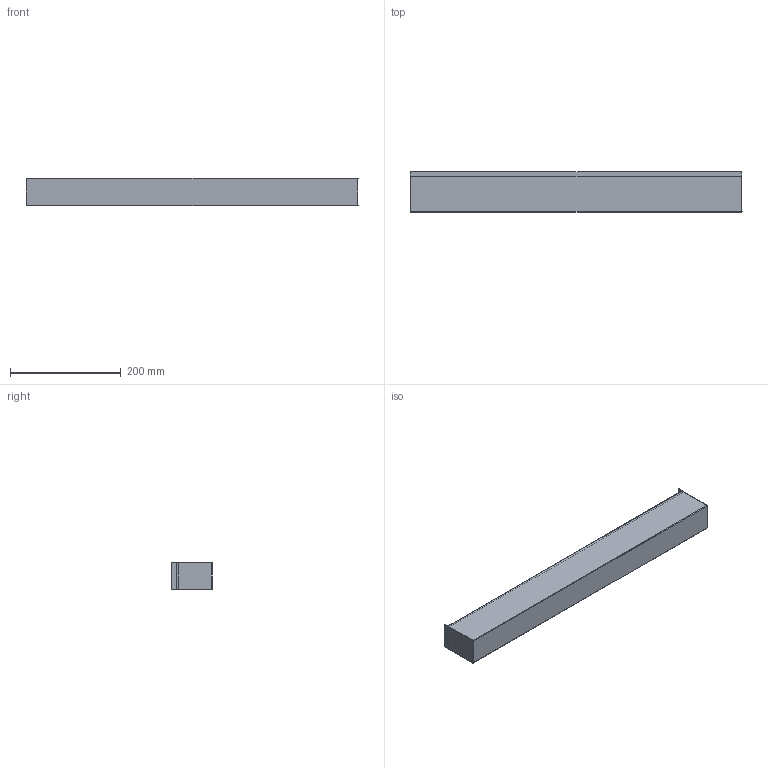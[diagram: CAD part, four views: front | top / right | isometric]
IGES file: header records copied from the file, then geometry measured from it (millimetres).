
Start section: SolidWorks IGES file using analytic representation for surfaces
Global section: file name: C:\Users\ppp\Desktop\Nowodvorski\Modele 3D_lampy\Straight Wall\3ds\Straight Wall_oprawa_60cm_24.07.15.IGS; native system: SolidWorks 2012; preprocessor: SolidWorks 2012; author: ppp; date: 150724.101532; units: millimetre
Bounding box: 600 x 73 x 50 mm (x, y, z)
Surface area: 310881.3 mm2 (no closed solid volume)
Topology: 0 solids, 0 shells, 36 faces, 196 edges, 192 vertices
Faces by surface type: bspline 24, revolution 12
